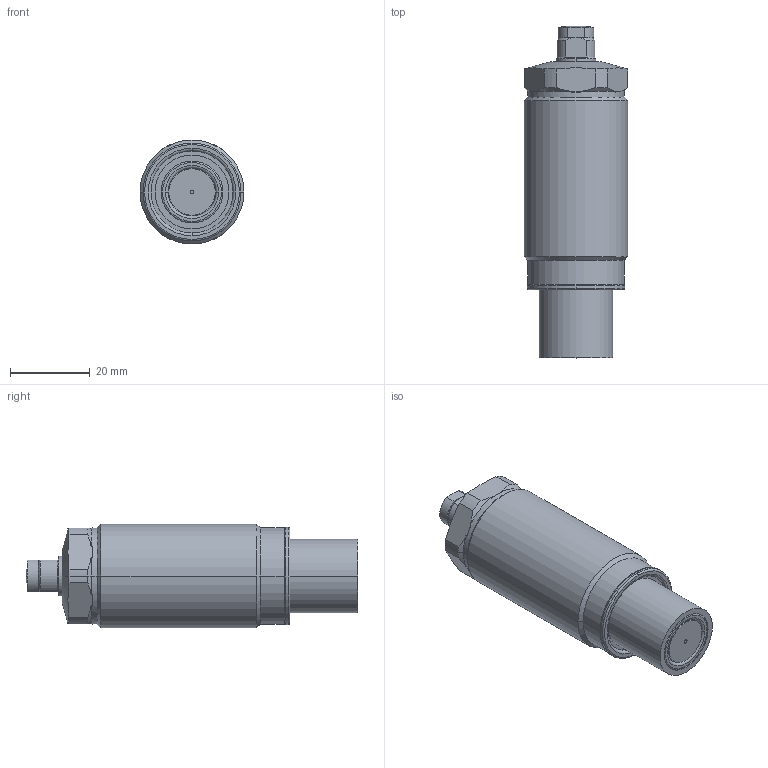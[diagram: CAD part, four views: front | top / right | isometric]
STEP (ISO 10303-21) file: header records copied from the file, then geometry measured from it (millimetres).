
FILE_DESCRIPTION(/* description */ (''),/* implementation_level */ '2;1');
FILE_NAME(/* name */ 'TSC26-Q_stp.stp',/* time_stamp */ '2024-11-02T12:37:57+08:00',/* author */ (''),/* organization */ (''),/* preprocessor_version */ 'ST-DEVELOPER v16.7',/* originating_system */ 'SIEMENS PLM Software NX 12.0',/* authorisation */ '');
FILE_SCHEMA (('AP203_CONFIGURATION_CONTROLLED_3D_DESIGN_OF_MECHANICAL_PARTS_AND_ASSEMBLIES_MIM_LF { 1 0 10303 403 2 1 2}'));
Length unit declared in the file: millimetre
Products named in the file (6): TSC26-Q-05; TSC26-Q-04; TSC26-Q-03; TSC26-Q-01; TSC26-Q-02; TSC00-Q_stp
Assembly tree (5 placements, depth 2):
  TSC00-Q_stp
    TSC26-Q-02
    TSC26-Q-01
    TSC26-Q-03
    TSC26-Q-04
    TSC26-Q-05
Bounding box: 26 x 83 x 26 mm (x, y, z)
Volume: 33696.3 mm3; surface area: 8926.5 mm2
Topology: 5 solids, 5 shells, 133 faces, 299 edges, 186 vertices
Faces by surface type: cylinder 49, plane 37, cone 25, torus 20, sphere 2
Entity records: 4459 total; most frequent: CARTESIAN_POINT 720, DIRECTION 712, ORIENTED_EDGE 598, AXIS2_PLACEMENT_3D 306, EDGE_CURVE 299, VERTEX_POINT 186, CIRCLE 167, EDGE_LOOP 149
